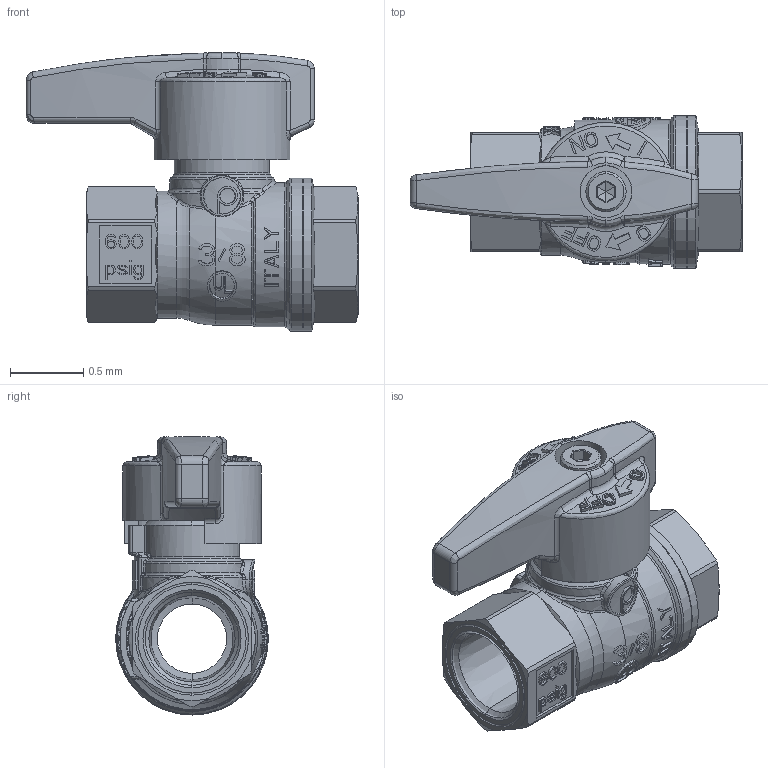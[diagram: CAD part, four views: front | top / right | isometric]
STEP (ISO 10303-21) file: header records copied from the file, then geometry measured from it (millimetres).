
FILE_DESCRIPTION(('Open CASCADE Model'),'2;1');
FILE_NAME('Open CASCADE Shape Model','2022-05-31T08:45:15',('Author'),( 'Open CASCADE'),'Open CASCADE STEP processor 7.3','Open CASCADE 7.3' ,'Unknown');
FILE_SCHEMA(('AUTOMOTIVE_DESIGN { 1 0 10303 214 1 1 1 1 }'));
Length unit declared in the file: millimetre
Products named in the file (17): Open CASCADE STEP translator 7.3 1; Open CASCADE STEP translator 7.3 1.1; Open CASCADE STEP translator 7.3 1.2; Open CASCADE STEP translator 7.3 1.3; Open CASCADE STEP translator 7.3 1.4; Open CASCADE STEP translator 7.3 1.5; Open CASCADE STEP translator 7.3 1.6; Open CASCADE STEP translator 7.3 1.7; Open CASCADE STEP translator 7.3 1.8; Open CASCADE STEP translator 7.3 1.9; Open CASCADE STEP translator 7.3 1.10; Open CASCADE STEP translator 7.3 1.11; Open CASCADE STEP translator 7.3 1.12; Open CASCADE STEP translator 7.3 1.13; Open CASCADE STEP translator 7.3 1.14; Open CASCADE STEP translator 7.3 1.15; Open CASCADE STEP translator 7.3 1.16
Assembly tree (16 placements, depth 2):
  Open CASCADE STEP translator 7.3 1
    Open CASCADE STEP translator 7.3 1.1
    Open CASCADE STEP translator 7.3 1.2
    Open CASCADE STEP translator 7.3 1.3
    Open CASCADE STEP translator 7.3 1.4
    Open CASCADE STEP translator 7.3 1.5
    Open CASCADE STEP translator 7.3 1.6
    Open CASCADE STEP translator 7.3 1.7
    Open CASCADE STEP translator 7.3 1.8
    Open CASCADE STEP translator 7.3 1.9
    Open CASCADE STEP translator 7.3 1.10
    Open CASCADE STEP translator 7.3 1.11
    Open CASCADE STEP translator 7.3 1.12
    Open CASCADE STEP translator 7.3 1.13
    Open CASCADE STEP translator 7.3 1.14
    Open CASCADE STEP translator 7.3 1.15
    Open CASCADE STEP translator 7.3 1.16
Bounding box: 2.27 x 1.04 x 1.9 mm (x, y, z)
Volume: 1.4 mm3; surface area: 30.5 mm2
Topology: 10 solids, 16 shells, 1742 faces, 4617 edges, 2975 vertices
Faces by surface type: plane 897, bspline 421, cylinder 195, cone 85, torus 72, sphere 42, revolution 16, extrusion 14
Entity records: 151953 total; most frequent: CARTESIAN_POINT 69641, DIRECTION 11906, ORIENTED_EDGE 9202, PCURVE 9202, DEFINITIONAL_REPRESENTATION 9202, VECTOR 6978, LINE 6964, B_SPLINE_CURVE_WITH_KNOTS 5459
